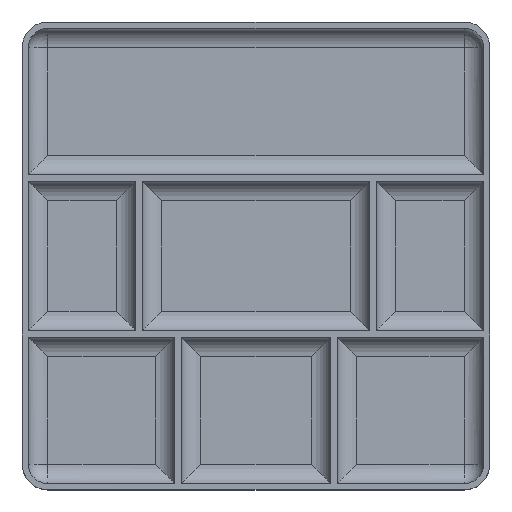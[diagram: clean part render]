
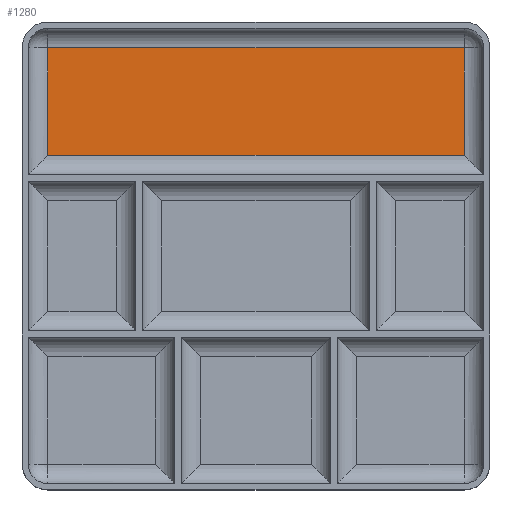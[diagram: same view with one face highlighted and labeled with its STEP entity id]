
A CAD part, top view. The second image highlights one B-rep face of the part: STEP entity #1280.
In plain terms, the highlighted planar face has unit normal (0, 0, 1).
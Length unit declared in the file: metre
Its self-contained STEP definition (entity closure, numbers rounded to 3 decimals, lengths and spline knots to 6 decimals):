
#83=PLANE('',#1390);
#325=ORIENTED_EDGE('',*,*,#597,.T.);
#326=ORIENTED_EDGE('',*,*,#598,.T.);
#327=ORIENTED_EDGE('',*,*,#599,.T.);
#328=ORIENTED_EDGE('',*,*,#600,.T.);
#597=EDGE_CURVE('',#737,#738,#869,.T.);
#598=EDGE_CURVE('',#738,#739,#870,.T.);
#599=EDGE_CURVE('',#739,#740,#871,.F.);
#600=EDGE_CURVE('',#740,#737,#872,.F.);
#737=VERTEX_POINT('',#2106);
#738=VERTEX_POINT('',#2107);
#739=VERTEX_POINT('',#2109);
#740=VERTEX_POINT('',#2111);
#869=LINE('',#2105,#1001);
#870=LINE('',#2108,#1002);
#871=LINE('',#2110,#1003);
#872=LINE('',#2112,#1004);
#1001=VECTOR('',#1690,1.);
#1002=VECTOR('',#1691,1.);
#1003=VECTOR('',#1692,1.);
#1004=VECTOR('',#1693,1.);
#1075=EDGE_LOOP('',(#325,#326,#327,#328));
#1163=FACE_BOUND('',#1075,.T.);
#1280=ADVANCED_FACE('',(#1163),#83,.T.);
#1390=AXIS2_PLACEMENT_3D('',#2104,#1688,#1689);
#1688=DIRECTION('',(0.,0.,1.));
#1689=DIRECTION('',(1.,0.,0.));
#1690=DIRECTION('',(0.,-1.,0.));
#1691=DIRECTION('',(1.,0.,0.));
#1692=DIRECTION('',(0.,-1.,0.));
#1693=DIRECTION('',(1.,0.,0.));
#2104=CARTESIAN_POINT('',(-0.00752,0.002243,0.));
#2105=CARTESIAN_POINT('',(-0.06092,0.023043,0.));
#2106=CARTESIAN_POINT('',(-0.06092,0.055643,0.));
#2107=CARTESIAN_POINT('',(-0.06092,0.028043,0.));
#2108=CARTESIAN_POINT('',(0.05088,0.028043,0.));
#2109=CARTESIAN_POINT('',(0.04588,0.028043,0.));
#2110=CARTESIAN_POINT('',(0.04588,0.002243,0.));
#2111=CARTESIAN_POINT('',(0.04588,0.055643,0.));
#2112=CARTESIAN_POINT('',(-0.00752,0.055643,0.));
